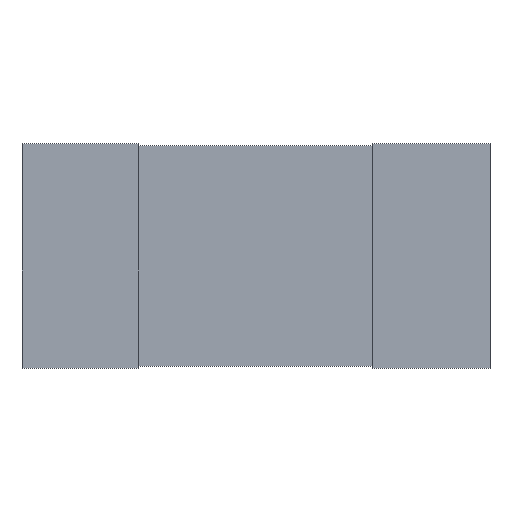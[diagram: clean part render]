
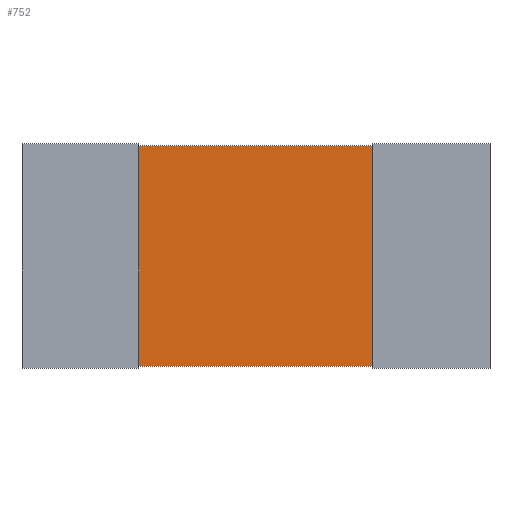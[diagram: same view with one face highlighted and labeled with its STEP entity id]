
A CAD part, top view. The second image highlights one B-rep face of the part: STEP entity #752.
In plain terms, the highlighted planar face has unit normal (0, 0, 1).
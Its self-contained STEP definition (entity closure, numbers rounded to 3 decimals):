
#217 = B_SPLINE_SURFACE_WITH_KNOTS('',1,1,(
    (#218,#219)
    ,(#220,#221
    )),.UNSPECIFIED.,.F.,.F.,.F.,(2,2),(2,2),(0.,0.635),(-3.048,0.),
  .PIECEWISE_BEZIER_KNOTS.);
#218 = CARTESIAN_POINT('',(-1.619,1.554,0.));
#219 = CARTESIAN_POINT('',(-1.619,-1.554,0.));
#220 = CARTESIAN_POINT('',(-1.619,1.554,0.648));
#221 = CARTESIAN_POINT('',(-1.619,-1.554,0.648));
#268 = PLANE('',#269);
#269 = AXIS2_PLACEMENT_3D('',#270,#271,#272);
#270 = CARTESIAN_POINT('',(-3.175,1.524,0.));
#271 = DIRECTION('',(0.,1.,0.));
#272 = DIRECTION('',(0.,0.,1.));
#297 = PLANE('',#298);
#298 = AXIS2_PLACEMENT_3D('',#299,#300,#301);
#299 = CARTESIAN_POINT('',(-3.175,-1.524,0.));
#300 = DIRECTION('',(0.,1.,0.));
#301 = DIRECTION('',(0.,0.,1.));
#442 = VERTEX_POINT('',#443);
#443 = CARTESIAN_POINT('',(-1.619,-1.524,0.635));
#461 = EDGE_CURVE('',#462,#442,#464,.T.);
#462 = VERTEX_POINT('',#463);
#463 = CARTESIAN_POINT('',(-1.619,1.524,0.635));
#464 = SURFACE_CURVE('',#465,(#468,#474),.PCURVE_S1.);
#465 = B_SPLINE_CURVE_WITH_KNOTS('',1,(#466,#467),.UNSPECIFIED.,.F.,.F.,
  (2,2),(0.,1.),.PIECEWISE_BEZIER_KNOTS.);
#466 = CARTESIAN_POINT('',(-1.619,1.524,0.635));
#467 = CARTESIAN_POINT('',(-1.619,-1.524,0.635));
#468 = PCURVE('',#217,#469);
#469 = DEFINITIONAL_REPRESENTATION('',(#470),#473);
#470 = B_SPLINE_CURVE_WITH_KNOTS('',1,(#471,#472),.UNSPECIFIED.,.F.,.F.,
  (2,2),(0.,1.),.PIECEWISE_BEZIER_KNOTS.);
#471 = CARTESIAN_POINT('',(0.623,-3.018));
#472 = CARTESIAN_POINT('',(0.623,-0.03));
#473 = ( GEOMETRIC_REPRESENTATION_CONTEXT(2) 
PARAMETRIC_REPRESENTATION_CONTEXT() REPRESENTATION_CONTEXT('2D SPACE',''
  ) );
#474 = PCURVE('',#475,#480);
#475 = PLANE('',#476);
#476 = AXIS2_PLACEMENT_3D('',#477,#478,#479);
#477 = CARTESIAN_POINT('',(-3.175,-1.524,0.635));
#478 = DIRECTION('',(0.,0.,1.));
#479 = DIRECTION('',(1.,0.,0.));
#480 = DEFINITIONAL_REPRESENTATION('',(#481),#484);
#481 = B_SPLINE_CURVE_WITH_KNOTS('',1,(#482,#483),.UNSPECIFIED.,.F.,.F.,
  (2,2),(0.,1.),.PIECEWISE_BEZIER_KNOTS.);
#482 = CARTESIAN_POINT('',(1.556,3.048));
#483 = CARTESIAN_POINT('',(1.556,0.));
#484 = ( GEOMETRIC_REPRESENTATION_CONTEXT(2) 
PARAMETRIC_REPRESENTATION_CONTEXT() REPRESENTATION_CONTEXT('2D SPACE',''
  ) );
#578 = EDGE_CURVE('',#462,#579,#581,.T.);
#579 = VERTEX_POINT('',#580);
#580 = CARTESIAN_POINT('',(1.619,1.524,0.635));
#581 = SURFACE_CURVE('',#582,(#586,#593),.PCURVE_S1.);
#582 = LINE('',#583,#584);
#583 = CARTESIAN_POINT('',(-3.175,1.524,0.635));
#584 = VECTOR('',#585,1.);
#585 = DIRECTION('',(1.,0.,0.));
#586 = PCURVE('',#268,#587);
#587 = DEFINITIONAL_REPRESENTATION('',(#588),#592);
#588 = LINE('',#589,#590);
#589 = CARTESIAN_POINT('',(0.635,0.));
#590 = VECTOR('',#591,1.);
#591 = DIRECTION('',(0.,1.));
#592 = ( GEOMETRIC_REPRESENTATION_CONTEXT(2) 
PARAMETRIC_REPRESENTATION_CONTEXT() REPRESENTATION_CONTEXT('2D SPACE',''
  ) );
#593 = PCURVE('',#475,#594);
#594 = DEFINITIONAL_REPRESENTATION('',(#595),#599);
#595 = LINE('',#596,#597);
#596 = CARTESIAN_POINT('',(0.,3.048));
#597 = VECTOR('',#598,1.);
#598 = DIRECTION('',(1.,0.));
#599 = ( GEOMETRIC_REPRESENTATION_CONTEXT(2) 
PARAMETRIC_REPRESENTATION_CONTEXT() REPRESENTATION_CONTEXT('2D SPACE',''
  ) );
#613 = B_SPLINE_SURFACE_WITH_KNOTS('',1,1,(
    (#614,#615)
    ,(#616,#617
    )),.UNSPECIFIED.,.F.,.F.,.F.,(2,2),(2,2),(0.,0.635),(-3.048,0.),
  .PIECEWISE_BEZIER_KNOTS.);
#614 = CARTESIAN_POINT('',(1.619,1.554,0.));
#615 = CARTESIAN_POINT('',(1.619,-1.554,0.));
#616 = CARTESIAN_POINT('',(1.619,1.554,0.648));
#617 = CARTESIAN_POINT('',(1.619,-1.554,0.648));
#705 = EDGE_CURVE('',#442,#706,#708,.T.);
#706 = VERTEX_POINT('',#707);
#707 = CARTESIAN_POINT('',(1.619,-1.524,0.635));
#708 = SURFACE_CURVE('',#709,(#713,#720),.PCURVE_S1.);
#709 = LINE('',#710,#711);
#710 = CARTESIAN_POINT('',(-3.175,-1.524,0.635));
#711 = VECTOR('',#712,1.);
#712 = DIRECTION('',(1.,0.,0.));
#713 = PCURVE('',#297,#714);
#714 = DEFINITIONAL_REPRESENTATION('',(#715),#719);
#715 = LINE('',#716,#717);
#716 = CARTESIAN_POINT('',(0.635,0.));
#717 = VECTOR('',#718,1.);
#718 = DIRECTION('',(0.,1.));
#719 = ( GEOMETRIC_REPRESENTATION_CONTEXT(2) 
PARAMETRIC_REPRESENTATION_CONTEXT() REPRESENTATION_CONTEXT('2D SPACE',''
  ) );
#720 = PCURVE('',#475,#721);
#721 = DEFINITIONAL_REPRESENTATION('',(#722),#726);
#722 = LINE('',#723,#724);
#723 = CARTESIAN_POINT('',(0.,0.));
#724 = VECTOR('',#725,1.);
#725 = DIRECTION('',(1.,0.));
#726 = ( GEOMETRIC_REPRESENTATION_CONTEXT(2) 
PARAMETRIC_REPRESENTATION_CONTEXT() REPRESENTATION_CONTEXT('2D SPACE',''
  ) );
#752 = ADVANCED_FACE('',(#753),#475,.T.);
#753 = FACE_BOUND('',#754,.T.);
#754 = EDGE_LOOP('',(#755,#756,#757,#758));
#755 = ORIENTED_EDGE('',*,*,#578,.F.);
#756 = ORIENTED_EDGE('',*,*,#461,.T.);
#757 = ORIENTED_EDGE('',*,*,#705,.T.);
#758 = ORIENTED_EDGE('',*,*,#759,.F.);
#759 = EDGE_CURVE('',#579,#706,#760,.T.);
#760 = SURFACE_CURVE('',#761,(#764,#770),.PCURVE_S1.);
#761 = B_SPLINE_CURVE_WITH_KNOTS('',1,(#762,#763),.UNSPECIFIED.,.F.,.F.,
  (2,2),(0.,1.),.PIECEWISE_BEZIER_KNOTS.);
#762 = CARTESIAN_POINT('',(1.619,1.524,0.635));
#763 = CARTESIAN_POINT('',(1.619,-1.524,0.635));
#764 = PCURVE('',#475,#765);
#765 = DEFINITIONAL_REPRESENTATION('',(#766),#769);
#766 = B_SPLINE_CURVE_WITH_KNOTS('',1,(#767,#768),.UNSPECIFIED.,.F.,.F.,
  (2,2),(0.,1.),.PIECEWISE_BEZIER_KNOTS.);
#767 = CARTESIAN_POINT('',(4.794,3.048));
#768 = CARTESIAN_POINT('',(4.794,0.));
#769 = ( GEOMETRIC_REPRESENTATION_CONTEXT(2) 
PARAMETRIC_REPRESENTATION_CONTEXT() REPRESENTATION_CONTEXT('2D SPACE',''
  ) );
#770 = PCURVE('',#613,#771);
#771 = DEFINITIONAL_REPRESENTATION('',(#772),#775);
#772 = B_SPLINE_CURVE_WITH_KNOTS('',1,(#773,#774),.UNSPECIFIED.,.F.,.F.,
  (2,2),(0.,1.),.PIECEWISE_BEZIER_KNOTS.);
#773 = CARTESIAN_POINT('',(0.623,-3.018));
#774 = CARTESIAN_POINT('',(0.623,-0.03));
#775 = ( GEOMETRIC_REPRESENTATION_CONTEXT(2) 
PARAMETRIC_REPRESENTATION_CONTEXT() REPRESENTATION_CONTEXT('2D SPACE',''
  ) );
